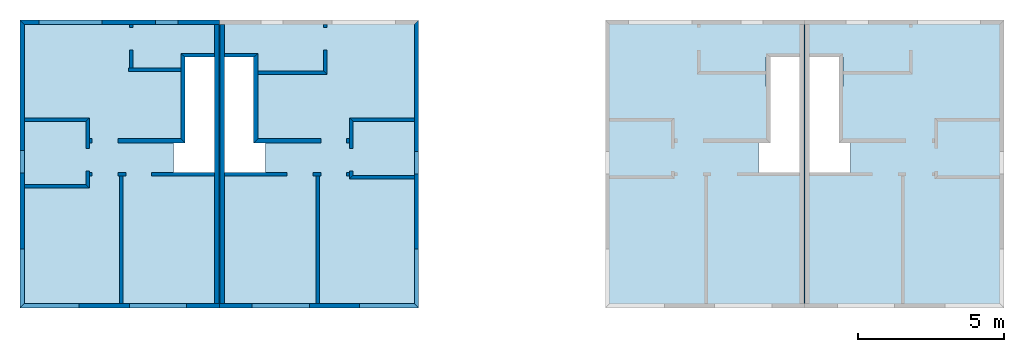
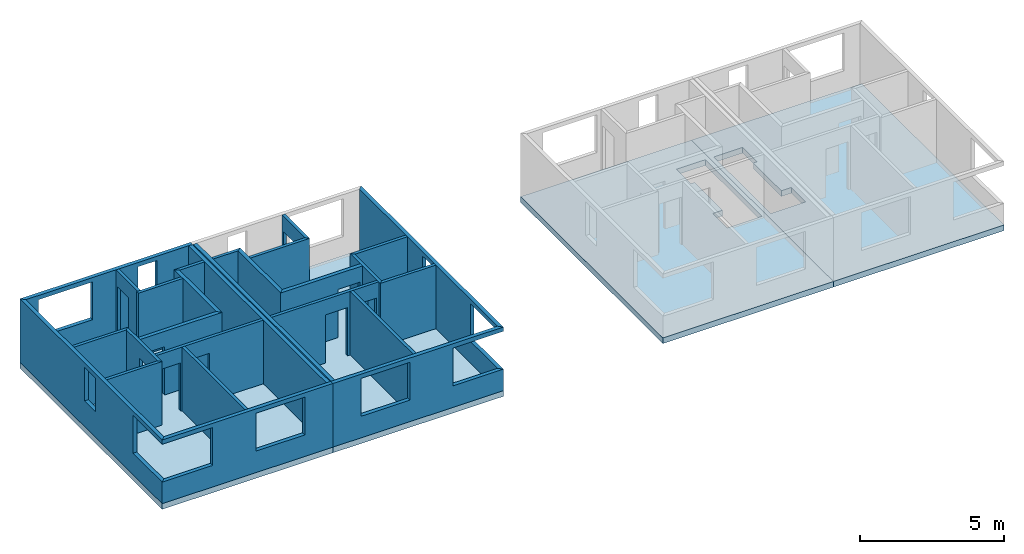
# One storey, part 1 of 2: 27 walls, 4 slabs, 24 openings.
"""IFC2X3 building model written with IfcOpenShell, lengths in metres."""

from ifc_helpers import new_model, entity, si_unit, converted_unit, money_unit, direction, frame, origin_with_axes, origin_2d_with_axis, place, context, subcontext, project, spatial, polyline, rectangle, outline, extrude, material, layer, layer_set, layer_usage, type_object, element, save


model = new_model("IFC2X3")

# Units and contexts
model_context = context("Model", 3, precision=1e-05, world=origin_with_axes(), true_north=direction((0.0, 1.0)))
body_context = subcontext(model_context, "Body", "Model", "MODEL_VIEW")
ifc_project = project(units=[si_unit("LENGTHUNIT", "METRE"), si_unit("AREAUNIT", "SQUARE_METRE"), si_unit("VOLUMEUNIT", "CUBIC_METRE"), converted_unit("PLANEANGLEUNIT", "DEGREE", entity("IfcPlaneAngleMeasure", 0.0174532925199), si_unit("PLANEANGLEUNIT", "RADIAN"), dimensions=[0, 0, 0, 0, 0, 0, 0]), si_unit("SOLIDANGLEUNIT", "STERADIAN"), money_unit("EUR"), si_unit("TIMEUNIT", "SECOND"), si_unit("MASSUNIT", "GRAM"), si_unit("THERMODYNAMICTEMPERATUREUNIT", "DEGREE_CELSIUS"), si_unit("LUMINOUSINTENSITYUNIT", "LUMEN")], contexts=[model_context])

# Site, building, storey
site_placement = place(None, origin_with_axes())
site = spatial("IfcSite", under=ifc_project, at=site_placement, Name="Gelände", CompositionType="ELEMENT")
building_placement = place(site_placement, origin_with_axes())
building = spatial("IfcBuilding", under=site, at=building_placement, Name="Gebäude", CompositionType="ELEMENT")
storey_placement = place(building_placement, frame((0.0, 0.0, 2.75), z_axis=(0.0, 0.0, 1.0), x_axis=(1.0, 0.0, 0.0)))
storey = spatial("IfcBuildingStorey", under=building, at=storey_placement, Name="Dachgeschoss", CompositionType="ELEMENT", Elevation=2.75)

# Slab, opening
ifc_material_1 = material(Name="Beton, Stahlbeton")
ifc_layer_1 = layer(ifc_material_1, 0.24, ventilated="UNKNOWN")
ifc_layer_set_1 = layer_set([ifc_layer_1], Name="Beton, Stahlbeton 0.24")
ifc_layer_usage_1 = layer_usage(ifc_layer_set_1, "AXIS3", "NEGATIVE", 0.24)
slab_type = type_object("IfcSlabType", Name="Beton, Stahlbeton 240", PredefinedType="FLOOR")
slab_1_placement = place(storey_placement, frame((5.53401754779, -7.59220593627, 0.0), z_axis=(0.0, 0.0, 1.0), x_axis=(1.0, 0.0, 0.0)))
slab_1 = element("IfcSlab", 1, at=slab_1_placement, inside=storey, type_object=slab_type, material=ifc_layer_usage_1, Name="Decke A", PredefinedType="FLOOR", context=body_context, shape_type="SweptSolid", body=[
    extrude(outline(polyline([(0.0, 0.0), (6.82, 0.0), (6.82, 9.84999998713), (0.0, 9.84999998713), (0.0, 0.0)])), frame((0.0, 0.0, -0.24), z_axis=(0.0, 0.0, 1.0), x_axis=(1.0, 0.0, 0.0)), (0.0, 0.0, 1.0), 0.24),
])
opening_1_placement = place(slab_1_placement, origin_with_axes())
element("IfcOpeningElement", 2, at=opening_1_placement, cuts=slab_1, Name="Slab Opening", context=body_context, shape_type="SweptSolid", body=[
    extrude(outline(polyline([(5.5, 8.58), (5.5, 7.58), (5.6477045, 7.5817655), (5.6477045, 5.64), (5.25, 5.64), (5.25, 4.64), (6.65, 4.64), (6.65, 8.58), (5.5, 8.58)])), frame((0.0, 0.0, -0.24), z_axis=(0.0, 0.0, 1.0), x_axis=(1.0, 0.0, 0.0)), (0.0, 0.0, 1.0), 0.24),
])

ifc_layer_usage_2 = layer_usage(ifc_layer_set_1, "AXIS3", "NEGATIVE", 0.24)
slab_2_placement = place(storey_placement, frame((19.1740175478, -7.59220593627, 0.0), z_axis=(0.0, 0.0, 1.0), x_axis=(1.0, 0.0, 0.0)))
slab_2 = element("IfcSlab", 3, at=slab_2_placement, inside=storey, type_object=slab_type, material=ifc_layer_usage_2, Name="Decke B", PredefinedType="FLOOR", context=body_context, shape_type="SweptSolid", body=[
    extrude(outline(polyline([(0.0, 0.0), (0.0, 9.84999998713), (-6.82, 9.84999998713), (-6.82, 0.0), (0.0, 0.0)])), frame((0.0, 0.0, -0.24), z_axis=(0.0, 0.0, 1.0), x_axis=(1.0, 0.0, 0.0)), (0.0, 0.0, 1.0), 0.24),
])
opening_2_placement = place(slab_2_placement, origin_with_axes())
element("IfcOpeningElement", 4, at=opening_2_placement, cuts=slab_2, Name="Slab Opening", context=body_context, shape_type="SweptSolid", body=[
    extrude(outline(polyline([(-6.65, 8.58), (-6.65, 4.64), (-5.25, 4.64), (-5.25, 5.64), (-5.6477045, 5.64), (-5.6477045, 7.5817655), (-5.5, 7.58), (-5.5, 8.58), (-6.65, 8.58)])), frame((0.0, 0.0, -0.24), z_axis=(0.0, 0.0, 1.0), x_axis=(1.0, 0.0, 0.0)), (0.0, 0.0, 1.0), 0.24),
])

ifc_layer_usage_3 = layer_usage(ifc_layer_set_1, "AXIS3", "NEGATIVE", 0.24)
slab_3_placement = place(storey_placement, frame((39.1939410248, -7.59220593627, 0.0), z_axis=(0.0, 0.0, 1.0), x_axis=(1.0, 0.0, 0.0)))
slab_3 = element("IfcSlab", 5, at=slab_3_placement, inside=storey, type_object=slab_type, material=ifc_layer_usage_3, Name="Decke D", PredefinedType="FLOOR", context=body_context, shape_type="SweptSolid", body=[
    extrude(outline(polyline([(0.0, 0.0), (0.0, 9.84999998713), (-6.82, 9.84999998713), (-6.82, 0.0), (0.0, 0.0)])), frame((0.0, 0.0, -0.24), z_axis=(0.0, 0.0, 1.0), x_axis=(1.0, 0.0, 0.0)), (0.0, 0.0, 1.0), 0.24),
])
opening_3_placement = place(slab_3_placement, origin_with_axes())
element("IfcOpeningElement", 6, at=opening_3_placement, cuts=slab_3, Name="Slab Opening", context=body_context, shape_type="SweptSolid", body=[
    extrude(outline(polyline([(-6.65, 8.58), (-6.65, 4.64), (-5.25, 4.64), (-5.25, 5.64), (-5.6477045, 5.64), (-5.6477045, 7.5817655), (-5.5, 7.58), (-5.5, 8.58), (-6.65, 8.58)])), frame((0.0, 0.0, -0.24), z_axis=(0.0, 0.0, 1.0), x_axis=(1.0, 0.0, 0.0)), (0.0, 0.0, 1.0), 0.24),
])

ifc_layer_usage_4 = layer_usage(ifc_layer_set_1, "AXIS3", "NEGATIVE", 0.24)
slab_4_placement = place(storey_placement, frame((25.5539410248, -7.59220593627, 0.0), z_axis=(0.0, 0.0, 1.0), x_axis=(1.0, 0.0, 0.0)))
slab_4 = element("IfcSlab", 7, at=slab_4_placement, inside=storey, type_object=slab_type, material=ifc_layer_usage_4, Name="Decke C", PredefinedType="FLOOR", context=body_context, shape_type="SweptSolid", body=[
    extrude(outline(polyline([(0.0, 0.0), (6.82, 0.0), (6.82, 9.84999998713), (0.0, 9.84999998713), (0.0, 0.0)])), frame((0.0, 0.0, -0.24), z_axis=(0.0, 0.0, 1.0), x_axis=(1.0, 0.0, 0.0)), (0.0, 0.0, 1.0), 0.24),
])
opening_4_placement = place(slab_4_placement, origin_with_axes())
element("IfcOpeningElement", 8, at=opening_4_placement, cuts=slab_4, Name="Slab Opening", context=body_context, shape_type="SweptSolid", body=[
    extrude(outline(polyline([(5.5, 8.58), (5.5, 7.58), (5.6477045, 7.5817655), (5.6477045, 5.64), (5.25, 5.64), (5.25, 4.64), (6.65, 4.64), (6.65, 8.58), (5.5, 8.58)])), frame((0.0, 0.0, -0.24), z_axis=(0.0, 0.0, 1.0), x_axis=(1.0, 0.0, 0.0)), (0.0, 0.0, 1.0), 0.24),
])

# Wall, openings
ifc_material_2 = material(Name="MW, Backstein")
ifc_layer_2 = layer(ifc_material_2, 0.15, ventilated="UNKNOWN")
ifc_layer_set_2 = layer_set([ifc_layer_2], Name="MW, Backstein 0.15")
ifc_layer_usage_5 = layer_usage(ifc_layer_set_2, "AXIS2", "NEGATIVE", 0.0)
wall_type_1 = type_object("IfcWallType", Name="MW, Backstein 150", PredefinedType="NOTDEFINED")
wall_1_placement = place(storey_placement, frame((12.3540175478, -7.59220593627, 0.0), z_axis=(0.0, 0.0, 1.0), x_axis=(-1.0, 0.0, 0.0)))
wall_1 = element("IfcWallStandardCase", 9, at=wall_1_placement, inside=storey, type_object=wall_type_1, material=ifc_layer_usage_5, Name="Aussenwand A", context=body_context, shape_type="SweptSolid", body=[
    extrude(outline(polyline([(0.0, -0.15), (6.67, -0.15), (6.82, 0.0), (0.0, 0.0), (0.0, -0.15)])), origin_with_axes(), (0.0, 0.0, 1.0), 2.69),
])
opening_5_placement = place(wall_1_placement, frame((2.1, 0.0, 0.91), z_axis=(0.0, 0.0, 1.0), x_axis=(1.0, 0.0, 0.0)))
element("IfcOpeningElement", 10, at=opening_5_placement, cuts=wall_1, Name="Fenster A", context=body_context, shape_type="SweptSolid", body=[
    extrude(rectangle(XDim=1.96, YDim=1.6, at=origin_2d_with_axis()), frame((0.0, -0.15, 0.8), z_axis=(0.0, -1.0, 0.0), x_axis=(1.0, 0.0, 0.0)), (0.0, 0.0, -1.0), 0.15),
    extrude(rectangle(XDim=1.96, YDim=1.6, at=origin_2d_with_axis()), frame((0.0, -0.15, 0.8), z_axis=(0.0, 1.0, 0.0), x_axis=(1.0, 0.0, 0.0)), (0.0, 0.0, -1.0), 0.15),
])
opening_6_placement = place(wall_1_placement, frame((5.81, 0.0, 0.91), z_axis=(0.0, 0.0, 1.0), x_axis=(1.0, 0.0, 0.0)))
element("IfcOpeningElement", 11, at=opening_6_placement, cuts=wall_1, Name="Eckfenster-003", context=body_context, shape_type="SweptSolid", body=[
    extrude(rectangle(XDim=2.02, YDim=1.6, at=origin_2d_with_axis()), frame((0.0, 0.0, 0.8), z_axis=(0.0, -1.0, 0.0), x_axis=(1.0, 0.0, 0.0)), (0.0, 0.0, -1.0), 0.15),
    extrude(rectangle(XDim=2.02, YDim=1.6, at=origin_2d_with_axis()), frame((0.0, 0.0, 0.8), z_axis=(0.0, 1.0, 0.0), x_axis=(1.0, 0.0, 0.0)), (0.0, 0.0, -1.0), 0.15),
])

ifc_layer_usage_6 = layer_usage(ifc_layer_set_2, "AXIS2", "NEGATIVE", 0.0)
wall_2_placement = place(storey_placement, frame((5.53401754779, -7.59220593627, 0.0), z_axis=(0.0, 0.0, 1.0), x_axis=(0.0, 1.0, 0.0)))
wall_2 = element("IfcWallStandardCase", 12, at=wall_2_placement, inside=storey, type_object=wall_type_1, material=ifc_layer_usage_6, Name="Aussenwand A", context=body_context, shape_type="SweptSolid", body=[
    extrude(outline(polyline([(0.15, -0.15), (9.69999998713, -0.15), (9.84999998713, 0.0), (0.0, 0.0), (0.15, -0.15)])), origin_with_axes(), (0.0, 0.0, 1.0), 2.69),
])
opening_7_placement = place(wall_2_placement, frame((4.99999998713, 0.0, 1.08), z_axis=(0.0, 0.0, 1.0), x_axis=(1.0, 0.0, 0.0)))
element("IfcOpeningElement", 13, at=opening_7_placement, cuts=wall_2, Name="Fenster A", context=body_context, shape_type="SweptSolid", body=[
    extrude(rectangle(XDim=0.76, YDim=1.43, at=origin_2d_with_axis()), frame((0.0, -0.15, 0.715), z_axis=(0.0, -1.0, 0.0), x_axis=(1.0, 0.0, 0.0)), (0.0, 0.0, -1.0), 0.15),
    extrude(rectangle(XDim=0.76, YDim=1.43, at=origin_2d_with_axis()), frame((0.0, -0.15, 0.715), z_axis=(0.0, 1.0, 0.0), x_axis=(1.0, 0.0, 0.0)), (0.0, 0.0, -1.0), 0.15),
])
opening_8_placement = place(wall_2_placement, frame((1.01, 0.0, 0.91), z_axis=(0.0, 0.0, 1.0), x_axis=(1.0, 0.0, 0.0)))
element("IfcOpeningElement", 14, at=opening_8_placement, cuts=wall_2, Name="Eckfenster-002", context=body_context, shape_type="SweptSolid", body=[
    extrude(rectangle(XDim=2.02, YDim=1.6, at=origin_2d_with_axis()), frame((0.0, 0.0, 0.8), z_axis=(0.0, -1.0, 0.0), x_axis=(1.0, 0.0, 0.0)), (0.0, 0.0, -1.0), 0.15),
    extrude(rectangle(XDim=2.02, YDim=1.6, at=origin_2d_with_axis()), frame((0.0, 0.0, 0.8), z_axis=(0.0, 1.0, 0.0), x_axis=(1.0, 0.0, 0.0)), (0.0, 0.0, -1.0), 0.15),
])

ifc_layer_usage_7 = layer_usage(ifc_layer_set_2, "AXIS2", "NEGATIVE", 0.0)
wall_3_placement = place(storey_placement, frame((5.53401754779, 2.25779405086, 0.0), z_axis=(0.0, 0.0, 1.0), x_axis=(1.0, 0.0, 0.0)))
wall_3 = element("IfcWallStandardCase", 15, at=wall_3_placement, inside=storey, type_object=wall_type_1, material=ifc_layer_usage_7, Name="Aussenwand A", context=body_context, shape_type="SweptSolid", body=[
    extrude(outline(polyline([(0.15, -0.15), (6.82, -0.15), (6.82, 0.0), (0.0, 0.0), (0.15, -0.15)])), origin_with_axes(), (0.0, 0.0, 1.0), 2.69),
])
opening_9_placement = place(wall_3_placement, frame((5.02, 0.0, 1.08), z_axis=(0.0, 0.0, 1.0), x_axis=(1.0, 0.0, 0.0)))
element("IfcOpeningElement", 16, at=opening_9_placement, cuts=wall_3, Name="Fenster A", context=body_context, shape_type="SweptSolid", body=[
    extrude(rectangle(XDim=0.76, YDim=1.43, at=origin_2d_with_axis()), frame((0.0, -0.15, 0.715), z_axis=(0.0, -1.0, 0.0), x_axis=(1.0, 0.0, 0.0)), (0.0, 0.0, -1.0), 0.15),
    extrude(rectangle(XDim=0.76, YDim=1.43, at=origin_2d_with_axis()), frame((0.0, -0.15, 0.715), z_axis=(0.0, 1.0, 0.0), x_axis=(1.0, 0.0, 0.0)), (0.0, 0.0, -1.0), 0.15),
])
opening_10_placement = place(wall_3_placement, frame((1.73, 0.0, 0.91), z_axis=(0.0, 0.0, 1.0), x_axis=(1.0, 0.0, 0.0)))
element("IfcOpeningElement", 17, at=opening_10_placement, cuts=wall_3, Name="Fenster A", context=body_context, shape_type="SweptSolid", body=[
    extrude(rectangle(XDim=2.16, YDim=1.6, at=origin_2d_with_axis()), frame((0.0, -0.15, 0.8), z_axis=(0.0, -1.0, 0.0), x_axis=(1.0, 0.0, 0.0)), (0.0, 0.0, -1.0), 0.15),
    extrude(rectangle(XDim=2.16, YDim=1.6, at=origin_2d_with_axis()), frame((0.0, -0.15, 0.8), z_axis=(0.0, 1.0, 0.0), x_axis=(1.0, 0.0, 0.0)), (0.0, 0.0, -1.0), 0.15),
])

# Wall
ifc_layer_usage_8 = layer_usage(ifc_layer_set_2, "AXIS2", "POSITIVE", 0.0)
wall_4_placement = place(storey_placement, frame((12.3340175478, -7.59220593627, 0.0), z_axis=(0.0, 0.0, 1.0), x_axis=(0.0, 1.0, 0.0)))
element("IfcWallStandardCase", 18, at=wall_4_placement, inside=storey, type_object=wall_type_1, material=ifc_layer_usage_8, Name="Zwischenwand A", context=body_context, shape_type="SweptSolid", body=[
    extrude(outline(polyline([(0.15, 0.0), (9.69999998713, 0.0), (9.69999998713, 0.15), (0.15, 0.15), (0.15, 0.0)])), origin_with_axes(), (0.0, 0.0, 1.0), 2.69),
])

# Wall, opening
ifc_layer_usage_9 = layer_usage(ifc_layer_set_2, "AXIS2", "POSITIVE", 0.0)
wall_5_placement = place(storey_placement, frame((7.90401754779, -1.95220593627, 0.0), z_axis=(0.0, 0.0, 1.0), x_axis=(1.0, 0.0, 0.0)))
wall_5 = element("IfcWallStandardCase", 19, at=wall_5_placement, inside=storey, type_object=wall_type_1, material=ifc_layer_usage_9, Name="Innenwand A", context=body_context, shape_type="SweptSolid", body=[
    extrude(outline(polyline([(0.0, 0.0), (3.28, 0.0), (3.13, 0.15), (0.0, 0.15), (0.0, 0.0)])), origin_with_axes(), (0.0, 0.0, 1.0), 2.69),
])
opening_11_placement = place(wall_5_placement, frame((0.54, 0.0, 0.0), z_axis=(0.0, 0.0, 1.0), x_axis=(1.0, 0.0, 0.0)))
element("IfcOpeningElement", 20, at=opening_11_placement, cuts=wall_5, Name="Tür A", context=body_context, shape_type="SweptSolid", body=[
    extrude(rectangle(XDim=0.88, YDim=2.04, at=origin_2d_with_axis()), frame((0.0, 0.15, 1.02), z_axis=(0.0, -1.0, 0.0), x_axis=(1.0, 0.0, 0.0)), (0.0, 0.0, -1.0), 0.15),
    extrude(rectangle(XDim=0.88, YDim=2.04, at=origin_2d_with_axis()), frame((0.0, 0.15, 1.02), z_axis=(0.0, 1.0, 0.0), x_axis=(1.0, 0.0, 0.0)), (0.0, 0.0, -1.0), 0.15),
])

# Wall
ifc_layer_usage_10 = layer_usage(ifc_layer_set_2, "AXIS2", "POSITIVE", 0.0)
wall_6_placement = place(storey_placement, frame((11.1840175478, -1.95220593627, 0.0), z_axis=(0.0, 0.0, 1.0), x_axis=(0.0, 1.0, 0.0)))
element("IfcWallStandardCase", 21, at=wall_6_placement, inside=storey, type_object=wall_type_1, material=ifc_layer_usage_10, Name="Innenwand A", context=body_context, shape_type="SweptSolid", body=[
    extrude(outline(polyline([(0.0, 0.0), (2.94, 0.0), (3.06, 0.15), (0.15, 0.15), (0.0, 0.0)])), origin_with_axes(), (0.0, 0.0, 1.0), 2.69),
])

# Wall, openings
ifc_layer_usage_11 = layer_usage(ifc_layer_set_2, "AXIS2", "POSITIVE", 0.0)
wall_7_placement = place(storey_placement, frame((12.3540175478, -7.59220593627, 0.0), z_axis=(0.0, 0.0, 1.0), x_axis=(1.0, 0.0, 0.0)))
wall_7 = element("IfcWallStandardCase", 22, at=wall_7_placement, inside=storey, type_object=wall_type_1, material=ifc_layer_usage_11, Name="Aussenwand B", context=body_context, shape_type="SweptSolid", body=[
    extrude(outline(polyline([(0.0, 0.0), (6.82, 0.0), (6.67, 0.15), (0.0, 0.15), (0.0, 0.0)])), origin_with_axes(), (0.0, 0.0, 1.0), 2.69),
])
opening_12_placement = place(wall_7_placement, frame((2.1, 0.0, 0.91), z_axis=(0.0, 0.0, 1.0), x_axis=(1.0, 0.0, 0.0)))
element("IfcOpeningElement", 23, at=opening_12_placement, cuts=wall_7, Name="Fenster B", context=body_context, shape_type="SweptSolid", body=[
    extrude(rectangle(XDim=1.96, YDim=1.6, at=origin_2d_with_axis()), frame((0.0, 0.15, 0.8), z_axis=(0.0, 1.0, 0.0), x_axis=(1.0, 0.0, 0.0)), (0.0, 0.0, -1.0), 0.15),
    extrude(rectangle(XDim=1.96, YDim=1.6, at=origin_2d_with_axis()), frame((0.0, 0.15, 0.8), z_axis=(0.0, -1.0, 0.0), x_axis=(1.0, 0.0, 0.0)), (0.0, 0.0, -1.0), 0.15),
])
opening_13_placement = place(wall_7_placement, frame((5.81, 0.0, 0.91), z_axis=(0.0, 0.0, 1.0), x_axis=(1.0, 0.0, 0.0)))
element("IfcOpeningElement", 24, at=opening_13_placement, cuts=wall_7, Name="Eckfenster-003", context=body_context, shape_type="SweptSolid", body=[
    extrude(rectangle(XDim=2.02, YDim=1.6, at=origin_2d_with_axis()), frame((0.0, 0.0, 0.8), z_axis=(0.0, 1.0, 0.0), x_axis=(1.0, 0.0, 0.0)), (0.0, 0.0, -1.0), 0.15),
    extrude(rectangle(XDim=2.02, YDim=1.6, at=origin_2d_with_axis()), frame((0.0, 0.0, 0.8), z_axis=(0.0, -1.0, 0.0), x_axis=(1.0, 0.0, 0.0)), (0.0, 0.0, -1.0), 0.15),
])

ifc_layer_usage_12 = layer_usage(ifc_layer_set_2, "AXIS2", "POSITIVE", 0.0)
wall_8_placement = place(storey_placement, frame((19.1740175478, -7.59220593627, 0.0), z_axis=(0.0, 0.0, 1.0), x_axis=(0.0, 1.0, 0.0)))
wall_8 = element("IfcWallStandardCase", 25, at=wall_8_placement, inside=storey, type_object=wall_type_1, material=ifc_layer_usage_12, Name="Aussenwand B", context=body_context, shape_type="SweptSolid", body=[
    extrude(outline(polyline([(0.0, 0.0), (9.84999998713, 0.0), (9.69999998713, 0.15), (0.15, 0.15), (0.0, 0.0)])), origin_with_axes(), (0.0, 0.0, 1.0), 2.69),
])
opening_14_placement = place(wall_8_placement, frame((4.96999998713, 0.0, 1.08), z_axis=(0.0, 0.0, 1.0), x_axis=(1.0, 0.0, 0.0)))
element("IfcOpeningElement", 26, at=opening_14_placement, cuts=wall_8, Name="Fenster B", context=body_context, shape_type="SweptSolid", body=[
    extrude(rectangle(XDim=0.76, YDim=1.43, at=origin_2d_with_axis()), frame((0.0, 0.15, 0.715), z_axis=(0.0, 1.0, 0.0), x_axis=(1.0, 0.0, 0.0)), (0.0, 0.0, -1.0), 0.15),
    extrude(rectangle(XDim=0.76, YDim=1.43, at=origin_2d_with_axis()), frame((0.0, 0.15, 0.715), z_axis=(0.0, -1.0, 0.0), x_axis=(1.0, 0.0, 0.0)), (0.0, 0.0, -1.0), 0.15),
])
opening_15_placement = place(wall_8_placement, frame((1.01, 0.0, 0.91), z_axis=(0.0, 0.0, 1.0), x_axis=(1.0, 0.0, 0.0)))
element("IfcOpeningElement", 27, at=opening_15_placement, cuts=wall_8, Name="Eckfenster-002", context=body_context, shape_type="SweptSolid", body=[
    extrude(rectangle(XDim=2.02, YDim=1.6, at=origin_2d_with_axis()), frame((0.0, 0.0, 0.8), z_axis=(0.0, 1.0, 0.0), x_axis=(1.0, 0.0, 0.0)), (0.0, 0.0, -1.0), 0.15),
    extrude(rectangle(XDim=2.02, YDim=1.6, at=origin_2d_with_axis()), frame((0.0, 0.0, 0.8), z_axis=(0.0, -1.0, 0.0), x_axis=(1.0, 0.0, 0.0)), (0.0, 0.0, -1.0), 0.15),
])

# Wall
ifc_layer_usage_13 = layer_usage(ifc_layer_set_2, "AXIS2", "NEGATIVE", 0.0)
wall_9_placement = place(storey_placement, frame((12.3740175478, -7.59220593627, 0.0), z_axis=(0.0, 0.0, 1.0), x_axis=(0.0, 1.0, 0.0)))
element("IfcWallStandardCase", 28, at=wall_9_placement, inside=storey, type_object=wall_type_1, material=ifc_layer_usage_13, Name="Zwischenwand B", context=body_context, shape_type="SweptSolid", body=[
    extrude(outline(polyline([(0.15, -0.15), (9.69999998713, -0.15), (9.69999998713, 0.0), (0.15, 0.0), (0.15, -0.15)])), origin_with_axes(), (0.0, 0.0, 1.0), 2.69),
])

# Wall, opening
ifc_layer_usage_14 = layer_usage(ifc_layer_set_2, "AXIS2", "NEGATIVE", 0.0)
wall_10_placement = place(storey_placement, frame((16.8040175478, -1.95220593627, 0.0), z_axis=(0.0, 0.0, 1.0), x_axis=(-1.0, 0.0, 0.0)))
wall_10 = element("IfcWallStandardCase", 29, at=wall_10_placement, inside=storey, type_object=wall_type_1, material=ifc_layer_usage_14, Name="Innenwand B", context=body_context, shape_type="SweptSolid", body=[
    extrude(outline(polyline([(0.0, -0.15), (3.13, -0.15), (3.28, 0.0), (0.0, 0.0), (0.0, -0.15)])), origin_with_axes(), (0.0, 0.0, 1.0), 2.69),
])
opening_16_placement = place(wall_10_placement, frame((0.54, 0.0, 0.0), z_axis=(0.0, 0.0, 1.0), x_axis=(1.0, 0.0, 0.0)))
element("IfcOpeningElement", 30, at=opening_16_placement, cuts=wall_10, Name="Tür B", context=body_context, shape_type="SweptSolid", body=[
    extrude(rectangle(XDim=0.88, YDim=2.04, at=origin_2d_with_axis()), frame((0.0, -0.15, 1.02), z_axis=(0.0, 1.0, 0.0), x_axis=(1.0, 0.0, 0.0)), (0.0, 0.0, -1.0), 0.15),
    extrude(rectangle(XDim=0.88, YDim=2.04, at=origin_2d_with_axis()), frame((0.0, -0.15, 1.02), z_axis=(0.0, -1.0, 0.0), x_axis=(1.0, 0.0, 0.0)), (0.0, 0.0, -1.0), 0.15),
])

# Wall
ifc_layer_usage_15 = layer_usage(ifc_layer_set_2, "AXIS2", "NEGATIVE", 0.0)
wall_11_placement = place(storey_placement, frame((13.5240175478, -1.95220593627, 0.0), z_axis=(0.0, 0.0, 1.0), x_axis=(0.0, 1.0, 0.0)))
element("IfcWallStandardCase", 31, at=wall_11_placement, inside=storey, type_object=wall_type_1, material=ifc_layer_usage_15, Name="Innenwand B", context=body_context, shape_type="SweptSolid", body=[
    extrude(outline(polyline([(0.15, -0.15), (3.06, -0.15), (2.94, 0.0), (0.0, 0.0), (0.15, -0.15)])), origin_with_axes(), (0.0, 0.0, 1.0), 2.69),
])

# Wall, openings
ifc_layer_3 = layer(ifc_material_2, 0.12, ventilated="UNKNOWN")
ifc_layer_set_3 = layer_set([ifc_layer_3], Name="MW, Backstein 0.12")
ifc_layer_usage_16 = layer_usage(ifc_layer_set_3, "AXIS2", "POSITIVE", 0.0)
wall_type_2 = type_object("IfcWallType", Name="MW, Backstein 120", PredefinedType="NOTDEFINED")
wall_12_placement = place(storey_placement, frame((12.3340175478, -2.95220593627, 0.0), z_axis=(0.0, 0.0, 1.0), x_axis=(-1.0, 0.0, 0.0)))
wall_12 = element("IfcWallStandardCase", 32, at=wall_12_placement, inside=storey, type_object=wall_type_2, material=ifc_layer_usage_16, Name="Innenwand A", context=body_context, shape_type="SweptSolid", body=[
    extrude(outline(polyline([(0.15, 0.0), (4.43, 0.0), (4.43, 0.12), (0.15, 0.12), (0.15, 0.0)])), origin_with_axes(), (0.0, 0.0, 1.0), 2.69),
])
opening_17_placement = place(wall_12_placement, frame((3.89, 0.0, 0.0), z_axis=(0.0, 0.0, 1.0), x_axis=(1.0, 0.0, 0.0)))
element("IfcOpeningElement", 33, at=opening_17_placement, cuts=wall_12, Name="Tür A", context=body_context, shape_type="SweptSolid", body=[
    extrude(rectangle(XDim=0.88, YDim=2.04, at=origin_2d_with_axis()), frame((0.0, 0.12, 1.02), z_axis=(0.0, -1.0, 0.0), x_axis=(1.0, 0.0, 0.0)), (0.0, 0.0, -1.0), 0.12),
    extrude(rectangle(XDim=0.88, YDim=2.04, at=origin_2d_with_axis()), frame((0.0, 0.12, 1.02), z_axis=(0.0, 1.0, 0.0), x_axis=(1.0, 0.0, 0.0)), (0.0, 0.0, -1.0), 0.12),
])
opening_18_placement = place(wall_12_placement, frame((2.74, 0.0, 0.0), z_axis=(0.0, 0.0, 1.0), x_axis=(1.0, 0.0, 0.0)))
element("IfcOpeningElement", 34, at=opening_18_placement, cuts=wall_12, Name="Tür A", context=body_context, shape_type="SweptSolid", body=[
    extrude(rectangle(XDim=0.88, YDim=2.04, at=origin_2d_with_axis()), frame((0.0, 0.12, 1.02), z_axis=(0.0, -1.0, 0.0), x_axis=(1.0, 0.0, 0.0)), (0.0, 0.0, -1.0), 0.12),
    extrude(rectangle(XDim=0.88, YDim=2.04, at=origin_2d_with_axis()), frame((0.0, 0.12, 1.02), z_axis=(0.0, 1.0, 0.0), x_axis=(1.0, 0.0, 0.0)), (0.0, 0.0, -1.0), 0.12),
])

# Walls
ifc_layer_usage_17 = layer_usage(ifc_layer_set_3, "AXIS2", "POSITIVE", 0.0)
wall_13_placement = place(storey_placement, frame((9.05401754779, -7.59220593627, 0.0), z_axis=(0.0, 0.0, 1.0), x_axis=(0.0, 1.0, 0.0)))
element("IfcWallStandardCase", 35, at=wall_13_placement, inside=storey, type_object=wall_type_2, material=ifc_layer_usage_17, Name="Innenwand A", context=body_context, shape_type="SweptSolid", body=[
    extrude(outline(polyline([(0.15, 0.0), (4.52, 0.0), (4.52, 0.12), (0.15, 0.12), (0.15, 0.0)])), origin_with_axes(), (0.0, 0.0, 1.0), 2.69),
])
ifc_layer_usage_18 = layer_usage(ifc_layer_set_3, "AXIS2", "POSITIVE", 0.0)
wall_14_placement = place(storey_placement, frame((5.53401754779, -3.48220593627, 0.0), z_axis=(0.0, 0.0, 1.0), x_axis=(1.0, 0.0, 0.0)))
element("IfcWallStandardCase", 36, at=wall_14_placement, inside=storey, type_object=wall_type_2, material=ifc_layer_usage_18, Name="Innenwand A", context=body_context, shape_type="SweptSolid", body=[
    extrude(outline(polyline([(0.15, 0.0), (2.37, 0.0), (2.25, 0.12), (0.15, 0.12), (0.15, 0.0)])), origin_with_axes(), (0.0, 0.0, 1.0), 2.69),
])

# Wall, opening
ifc_layer_usage_19 = layer_usage(ifc_layer_set_3, "AXIS2", "POSITIVE", 0.0)
wall_15_placement = place(storey_placement, frame((7.90401754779, -3.48220593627, 0.0), z_axis=(0.0, 0.0, 1.0), x_axis=(0.0, 1.0, 0.0)))
wall_15 = element("IfcWallStandardCase", 37, at=wall_15_placement, inside=storey, type_object=wall_type_2, material=ifc_layer_usage_19, Name="Innenwand A", context=body_context, shape_type="SweptSolid", body=[
    extrude(outline(polyline([(0.0, 0.0), (2.39, 0.0), (2.27, 0.12), (0.12, 0.12), (0.0, 0.0)])), origin_with_axes(), (0.0, 0.0, 1.0), 2.69),
])
opening_19_placement = place(wall_15_placement, frame((0.96, 0.0, 0.0), z_axis=(0.0, 0.0, 1.0), x_axis=(1.0, 0.0, 0.0)))
element("IfcOpeningElement", 38, at=opening_19_placement, cuts=wall_15, Name="Tür A", context=body_context, shape_type="SweptSolid", body=[
    extrude(rectangle(XDim=0.78, YDim=2.04, at=origin_2d_with_axis()), frame((0.0, 0.0, 1.02), z_axis=(0.0, 1.0, 0.0), x_axis=(1.0, 0.0, 0.0)), (0.0, 0.0, -1.0), 0.12),
    extrude(rectangle(XDim=0.78, YDim=2.04, at=origin_2d_with_axis()), frame((0.0, 0.0, 1.02), z_axis=(0.0, -1.0, 0.0), x_axis=(1.0, 0.0, 0.0)), (0.0, 0.0, -1.0), 0.12),
])

# Walls
ifc_layer_usage_20 = layer_usage(ifc_layer_set_3, "AXIS2", "POSITIVE", 0.0)
wall_16_placement = place(storey_placement, frame((7.90401754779, -1.09220593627, 0.0), z_axis=(0.0, 0.0, 1.0), x_axis=(-1.0, 0.0, 0.0)))
element("IfcWallStandardCase", 39, at=wall_16_placement, inside=storey, type_object=wall_type_2, material=ifc_layer_usage_20, Name="Innenwand A", context=body_context, shape_type="SweptSolid", body=[
    extrude(outline(polyline([(0.0, 0.0), (2.22, 0.0), (2.22, 0.12), (0.12, 0.12), (0.0, 0.0)])), origin_with_axes(), (0.0, 0.0, 1.0), 2.69),
])
ifc_layer_usage_21 = layer_usage(ifc_layer_set_3, "AXIS2", "POSITIVE", 0.0)
wall_17_placement = place(storey_placement, frame((12.3340175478, 1.10779406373, 0.0), z_axis=(0.0, 0.0, 1.0), x_axis=(-1.0, 0.0, 0.0)))
element("IfcWallStandardCase", 40, at=wall_17_placement, inside=storey, type_object=wall_type_2, material=ifc_layer_usage_21, Name="Innenwand A", context=body_context, shape_type="SweptSolid", body=[
    extrude(outline(polyline([(0.15, 0.0), (1.3, 0.0), (1.15, 0.12), (0.15, 0.12), (0.15, 0.0)])), origin_with_axes(), (0.0, 0.0, 1.0), 2.69),
])
ifc_layer_usage_22 = layer_usage(ifc_layer_set_3, "AXIS2", "NEGATIVE", 0.0)
wall_18_placement = place(storey_placement, frame((11.1840175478, 0.497794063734, 0.0), z_axis=(0.0, 0.0, 1.0), x_axis=(-1.0, 0.0, 0.0)))
element("IfcWallStandardCase", 41, at=wall_18_placement, inside=storey, type_object=wall_type_2, material=ifc_layer_usage_22, Name="Innenwand A", context=body_context, shape_type="SweptSolid", body=[
    extrude(outline(polyline([(0.15, -0.12), (1.93, -0.12), (1.93, 0.0), (0.15, 0.0), (0.15, -0.12)])), origin_with_axes(), (0.0, 0.0, 1.0), 2.69),
])

# Wall, opening
ifc_layer_usage_23 = layer_usage(ifc_layer_set_3, "AXIS2", "NEGATIVE", 0.0)
wall_19_placement = place(storey_placement, frame((9.40401754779, 2.25779405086, 0.0), z_axis=(0.0, 0.0, 1.0), x_axis=(0.0, -1.0, 0.0)))
wall_19 = element("IfcWallStandardCase", 42, at=wall_19_placement, inside=storey, type_object=wall_type_2, material=ifc_layer_usage_23, Name="Innenwand A", context=body_context, shape_type="SweptSolid", body=[
    extrude(outline(polyline([(0.15, -0.12), (1.63999998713, -0.12), (1.63999998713, 0.0), (0.15, 0.0), (0.15, -0.12)])), origin_with_axes(), (0.0, 0.0, 1.0), 2.69),
])
opening_20_placement = place(wall_19_placement, frame((0.64, 0.0, 0.0), z_axis=(0.0, 0.0, 1.0), x_axis=(1.0, 0.0, 0.0)))
element("IfcOpeningElement", 43, at=opening_20_placement, cuts=wall_19, Name="Tür A", context=body_context, shape_type="SweptSolid", body=[
    extrude(rectangle(XDim=0.78, YDim=2.04, at=origin_2d_with_axis()), frame((0.0, 0.0, 1.02), z_axis=(0.0, -1.0, 0.0), x_axis=(1.0, 0.0, 0.0)), (0.0, 0.0, -1.0), 0.12),
    extrude(rectangle(XDim=0.78, YDim=2.04, at=origin_2d_with_axis()), frame((0.0, 0.0, 1.02), z_axis=(0.0, 1.0, 0.0), x_axis=(1.0, 0.0, 0.0)), (0.0, 0.0, -1.0), 0.12),
])

# Wall, openings
ifc_layer_usage_24 = layer_usage(ifc_layer_set_3, "AXIS2", "NEGATIVE", 0.0)
wall_20_placement = place(storey_placement, frame((12.3740175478, -2.95220593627, 0.0), z_axis=(0.0, 0.0, 1.0), x_axis=(1.0, 0.0, 0.0)))
wall_20 = element("IfcWallStandardCase", 44, at=wall_20_placement, inside=storey, type_object=wall_type_2, material=ifc_layer_usage_24, Name="Innenwand B", context=body_context, shape_type="SweptSolid", body=[
    extrude(outline(polyline([(0.15, -0.12), (4.43, -0.12), (4.43, 0.0), (0.15, 0.0), (0.15, -0.12)])), origin_with_axes(), (0.0, 0.0, 1.0), 2.69),
])
opening_21_placement = place(wall_20_placement, frame((3.89, 0.0, 0.0), z_axis=(0.0, 0.0, 1.0), x_axis=(1.0, 0.0, 0.0)))
element("IfcOpeningElement", 45, at=opening_21_placement, cuts=wall_20, Name="Tür B", context=body_context, shape_type="SweptSolid", body=[
    extrude(rectangle(XDim=0.88, YDim=2.04, at=origin_2d_with_axis()), frame((0.0, -0.12, 1.02), z_axis=(0.0, 1.0, 0.0), x_axis=(1.0, 0.0, 0.0)), (0.0, 0.0, -1.0), 0.12),
    extrude(rectangle(XDim=0.88, YDim=2.04, at=origin_2d_with_axis()), frame((0.0, -0.12, 1.02), z_axis=(0.0, -1.0, 0.0), x_axis=(1.0, 0.0, 0.0)), (0.0, 0.0, -1.0), 0.12),
])
opening_22_placement = place(wall_20_placement, frame((2.74, 0.0, 0.0), z_axis=(0.0, 0.0, 1.0), x_axis=(1.0, 0.0, 0.0)))
element("IfcOpeningElement", 46, at=opening_22_placement, cuts=wall_20, Name="Tür B", context=body_context, shape_type="SweptSolid", body=[
    extrude(rectangle(XDim=0.88, YDim=2.04, at=origin_2d_with_axis()), frame((0.0, -0.12, 1.02), z_axis=(0.0, 1.0, 0.0), x_axis=(1.0, 0.0, 0.0)), (0.0, 0.0, -1.0), 0.12),
    extrude(rectangle(XDim=0.88, YDim=2.04, at=origin_2d_with_axis()), frame((0.0, -0.12, 1.02), z_axis=(0.0, -1.0, 0.0), x_axis=(1.0, 0.0, 0.0)), (0.0, 0.0, -1.0), 0.12),
])

# Walls
ifc_layer_usage_25 = layer_usage(ifc_layer_set_3, "AXIS2", "NEGATIVE", 0.0)
wall_21_placement = place(storey_placement, frame((15.6540175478, -7.59220593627, 0.0), z_axis=(0.0, 0.0, 1.0), x_axis=(0.0, 1.0, 0.0)))
element("IfcWallStandardCase", 47, at=wall_21_placement, inside=storey, type_object=wall_type_2, material=ifc_layer_usage_25, Name="Innenwand B", context=body_context, shape_type="SweptSolid", body=[
    extrude(outline(polyline([(0.15, -0.12), (4.52, -0.12), (4.52, 0.0), (0.15, 0.0), (0.15, -0.12)])), origin_with_axes(), (0.0, 0.0, 1.0), 2.69),
])
ifc_layer_usage_26 = layer_usage(ifc_layer_set_3, "AXIS2", "NEGATIVE", 0.0)
wall_22_placement = place(storey_placement, frame((19.1740175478, -3.18220593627, 0.0), z_axis=(0.0, 0.0, 1.0), x_axis=(-1.0, 0.0, 0.0)))
element("IfcWallStandardCase", 48, at=wall_22_placement, inside=storey, type_object=wall_type_2, material=ifc_layer_usage_26, Name="Innenwand B", context=body_context, shape_type="SweptSolid", body=[
    extrude(outline(polyline([(0.15, -0.12), (2.25, -0.12), (2.37, 0.0), (0.15, 0.0), (0.15, -0.12)])), origin_with_axes(), (0.0, 0.0, 1.0), 2.69),
])

# Wall, opening
ifc_layer_usage_27 = layer_usage(ifc_layer_set_3, "AXIS2", "NEGATIVE", 0.0)
wall_23_placement = place(storey_placement, frame((16.8040175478, -3.18220593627, 0.0), z_axis=(0.0, 0.0, 1.0), x_axis=(0.0, 1.0, 0.0)))
wall_23 = element("IfcWallStandardCase", 49, at=wall_23_placement, inside=storey, type_object=wall_type_2, material=ifc_layer_usage_27, Name="Innenwand B", context=body_context, shape_type="SweptSolid", body=[
    extrude(outline(polyline([(0.12, -0.12), (1.97, -0.12), (2.09, 0.0), (0.0, 0.0), (0.12, -0.12)])), origin_with_axes(), (0.0, 0.0, 1.0), 2.69),
])
opening_23_placement = place(wall_23_placement, frame((0.66, 0.0, 0.0), z_axis=(0.0, 0.0, 1.0), x_axis=(1.0, 0.0, 0.0)))
element("IfcOpeningElement", 50, at=opening_23_placement, cuts=wall_23, Name="Tür B", context=body_context, shape_type="SweptSolid", body=[
    extrude(rectangle(XDim=0.78, YDim=2.04, at=origin_2d_with_axis()), frame((0.0, 0.0, 1.02), z_axis=(0.0, -1.0, 0.0), x_axis=(1.0, 0.0, 0.0)), (0.0, 0.0, -1.0), 0.12),
    extrude(rectangle(XDim=0.78, YDim=2.04, at=origin_2d_with_axis()), frame((0.0, 0.0, 1.02), z_axis=(0.0, 1.0, 0.0), x_axis=(1.0, 0.0, 0.0)), (0.0, 0.0, -1.0), 0.12),
])

# Walls
ifc_layer_usage_28 = layer_usage(ifc_layer_set_3, "AXIS2", "NEGATIVE", 0.0)
wall_24_placement = place(storey_placement, frame((16.8040175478, -1.09220593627, 0.0), z_axis=(0.0, 0.0, 1.0), x_axis=(1.0, 0.0, 0.0)))
element("IfcWallStandardCase", 51, at=wall_24_placement, inside=storey, type_object=wall_type_2, material=ifc_layer_usage_28, Name="Innenwand B", context=body_context, shape_type="SweptSolid", body=[
    extrude(outline(polyline([(0.12, -0.12), (2.22, -0.12), (2.22, 0.0), (0.0, 0.0), (0.12, -0.12)])), origin_with_axes(), (0.0, 0.0, 1.0), 2.69),
])
ifc_layer_usage_29 = layer_usage(ifc_layer_set_3, "AXIS2", "NEGATIVE", 0.0)
wall_25_placement = place(storey_placement, frame((12.3740175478, 1.10779406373, 0.0), z_axis=(0.0, 0.0, 1.0), x_axis=(1.0, 0.0, 0.0)))
element("IfcWallStandardCase", 52, at=wall_25_placement, inside=storey, type_object=wall_type_2, material=ifc_layer_usage_29, Name="Innenwand B", context=body_context, shape_type="SweptSolid", body=[
    extrude(outline(polyline([(0.15, -0.12), (1.15, -0.12), (1.3, 0.0), (0.15, 0.0), (0.15, -0.12)])), origin_with_axes(), (0.0, 0.0, 1.0), 2.69),
])
ifc_layer_usage_30 = layer_usage(ifc_layer_set_3, "AXIS2", "POSITIVE", 0.0)
wall_26_placement = place(storey_placement, frame((13.5240175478, 0.397794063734, 0.0), z_axis=(0.0, 0.0, 1.0), x_axis=(1.0, 0.0, 0.0)))
element("IfcWallStandardCase", 53, at=wall_26_placement, inside=storey, type_object=wall_type_2, material=ifc_layer_usage_30, Name="Innenwand B", context=body_context, shape_type="SweptSolid", body=[
    extrude(outline(polyline([(0.15, 0.0), (2.52, 0.0), (2.4, 0.12), (0.15, 0.12), (0.15, 0.0)])), origin_with_axes(), (0.0, 0.0, 1.0), 2.69),
])

# Wall, opening
ifc_layer_usage_31 = layer_usage(ifc_layer_set_3, "AXIS2", "POSITIVE", 0.0)
wall_27_placement = place(storey_placement, frame((15.9240175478, 2.25779405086, 0.0), z_axis=(0.0, 0.0, 1.0), x_axis=(0.0, -1.0, 0.0)))
wall_27 = element("IfcWallStandardCase", 54, at=wall_27_placement, inside=storey, type_object=wall_type_2, material=ifc_layer_usage_31, Name="Innenwand B", context=body_context, shape_type="SweptSolid", body=[
    extrude(outline(polyline([(0.149999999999, 0.0), (1.73999998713, 0.0), (1.85999998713, 0.12), (0.149999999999, 0.12), (0.149999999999, 0.0)])), origin_with_axes(), (0.0, 0.0, 1.0), 2.69),
])
opening_24_placement = place(wall_27_placement, frame((0.64, 0.0, 0.0), z_axis=(0.0, 0.0, 1.0), x_axis=(1.0, 0.0, 0.0)))
element("IfcOpeningElement", 55, at=opening_24_placement, cuts=wall_27, Name="Tür B", context=body_context, shape_type="SweptSolid", body=[
    extrude(rectangle(XDim=0.78, YDim=2.04, at=origin_2d_with_axis()), frame((0.0, 0.0, 1.02), z_axis=(0.0, 1.0, 0.0), x_axis=(1.0, 0.0, 0.0)), (0.0, 0.0, -1.0), 0.12),
    extrude(rectangle(XDim=0.78, YDim=2.04, at=origin_2d_with_axis()), frame((0.0, 0.0, 1.02), z_axis=(0.0, -1.0, 0.0), x_axis=(1.0, 0.0, 0.0)), (0.0, 0.0, -1.0), 0.12),
])

save(model, "model.ifc")
